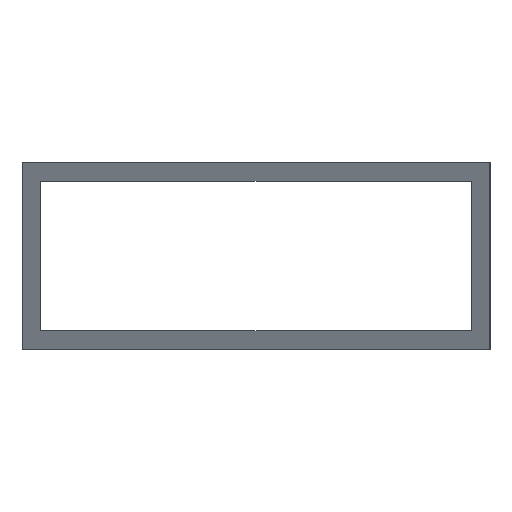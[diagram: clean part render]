
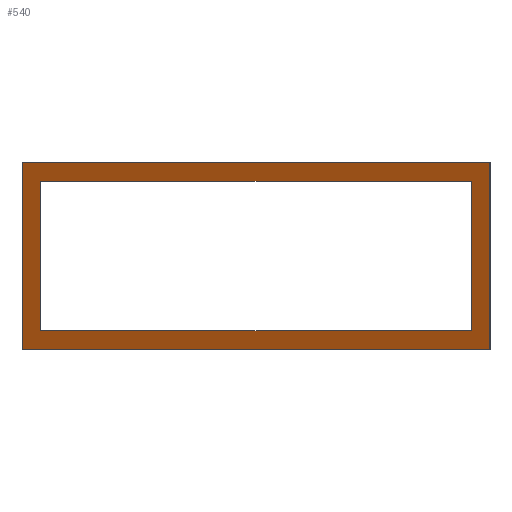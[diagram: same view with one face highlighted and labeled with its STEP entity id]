
A CAD part, left-side view. The second image highlights one B-rep face of the part: STEP entity #540.
In plain terms, the highlighted planar face has unit normal (-0.903, 0, -0.43).
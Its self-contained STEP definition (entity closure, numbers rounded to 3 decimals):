
#278=ORIENTED_EDGE('',*,*,#384,.T.);
#279=ORIENTED_EDGE('',*,*,#375,.T.);
#280=ORIENTED_EDGE('',*,*,#379,.T.);
#281=ORIENTED_EDGE('',*,*,#382,.T.);
#282=ORIENTED_EDGE('',*,*,#386,.T.);
#283=ORIENTED_EDGE('',*,*,#387,.T.);
#284=ORIENTED_EDGE('',*,*,#388,.T.);
#285=ORIENTED_EDGE('',*,*,#389,.T.);
#311=VECTOR('',#425,1.);
#315=VECTOR('',#431,1.);
#318=VECTOR('',#436,1.);
#320=VECTOR('',#440,1.);
#322=VECTOR('',#444,1.);
#323=VECTOR('',#445,1.);
#324=VECTOR('',#446,1.);
#325=VECTOR('',#447,1.);
#335=LINE('',#471,#311);
#339=LINE('',#479,#315);
#342=LINE('',#485,#318);
#344=LINE('',#488,#320);
#346=LINE('',#493,#322);
#347=LINE('',#495,#323);
#348=LINE('',#497,#324);
#349=LINE('',#498,#325);
#359=VERTEX_POINT('',#468);
#360=VERTEX_POINT('',#470);
#363=VERTEX_POINT('',#477);
#365=VERTEX_POINT('',#483);
#366=VERTEX_POINT('',#491);
#367=VERTEX_POINT('',#492);
#368=VERTEX_POINT('',#494);
#369=VERTEX_POINT('',#496);
#375=EDGE_CURVE('',#360,#359,#335,.T.);
#379=EDGE_CURVE('',#359,#363,#339,.T.);
#382=EDGE_CURVE('',#363,#365,#342,.T.);
#384=EDGE_CURVE('',#365,#360,#344,.T.);
#386=EDGE_CURVE('',#366,#367,#346,.T.);
#387=EDGE_CURVE('',#367,#368,#347,.T.);
#388=EDGE_CURVE('',#368,#369,#348,.T.);
#389=EDGE_CURVE('',#369,#366,#349,.T.);
#402=EDGE_LOOP('',(#278,#279,#280,#281));
#403=EDGE_LOOP('',(#282,#283,#284,#285));
#414=FACE_BOUND('',#402,.T.);
#415=FACE_BOUND('',#403,.T.);
#425=DIRECTION('',(-9.54,0.,20.));
#431=DIRECTION('',(0.,50.,0.));
#436=DIRECTION('',(9.54,0.,-20.));
#440=DIRECTION('',(0.,-50.,0.));
#442=DIRECTION('',(-0.903,0.,-0.431));
#443=DIRECTION('',(0.,0.903,0.));
#444=DIRECTION('',(7.632,0.,-16.));
#445=DIRECTION('',(0.,46.,0.));
#446=DIRECTION('',(-7.632,0.,16.));
#447=DIRECTION('',(0.,-46.,0.));
#468=CARTESIAN_POINT('',(30.17,0.,0.));
#470=CARTESIAN_POINT('',(39.71,0.,-20.));
#471=CARTESIAN_POINT('',(39.71,0.,-20.));
#477=CARTESIAN_POINT('',(30.17,50.,0.));
#479=CARTESIAN_POINT('',(30.17,0.,0.));
#483=CARTESIAN_POINT('',(39.71,50.,-20.));
#485=CARTESIAN_POINT('',(30.17,50.,0.));
#488=CARTESIAN_POINT('',(39.71,50.,-20.));
#490=CARTESIAN_POINT('',(39.71,50.,-20.));
#491=CARTESIAN_POINT('',(31.124,2.,-2.));
#492=CARTESIAN_POINT('',(38.756,2.,-18.));
#493=CARTESIAN_POINT('',(31.124,2.,-2.));
#494=CARTESIAN_POINT('',(38.756,48.,-18.));
#495=CARTESIAN_POINT('',(38.756,2.,-18.));
#496=CARTESIAN_POINT('',(31.124,48.,-2.));
#497=CARTESIAN_POINT('',(38.756,48.,-18.));
#498=CARTESIAN_POINT('',(31.124,48.,-2.));
#520=AXIS2_PLACEMENT_3D('',#490,#442,#443);
#530=PLANE('',#520);
#540=ADVANCED_FACE('',(#414,#415),#530,.T.);
